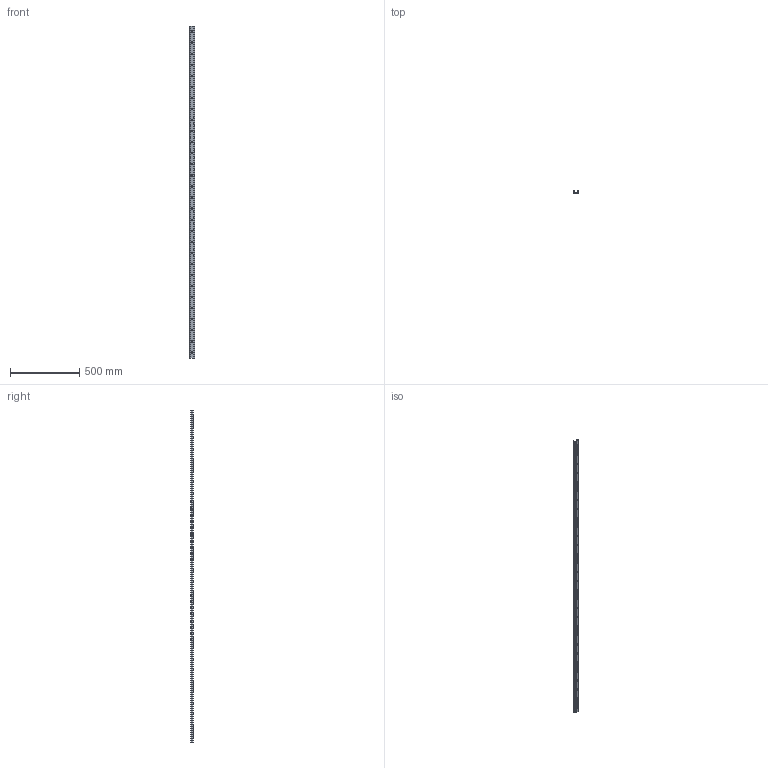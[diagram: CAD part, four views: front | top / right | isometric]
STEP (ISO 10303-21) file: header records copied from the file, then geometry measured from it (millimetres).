
FILE_DESCRIPTION(('STEP AP214'),'1');
FILE_NAME('rail_tex40-2400.stp','2019-03-08T08:33:37',('TraceParts'),('TraceParts S.A.'),'Spatial InterOp 3D',' ',' ');
FILE_SCHEMA(('automotive_design'));
Length unit declared in the file: millimetre
Products named in the file (1): rail_tex40-2400
Bounding box: 39.53 x 21 x 2400 mm (x, y, z)
Volume: 469230.4 mm3; surface area: 330578.2 mm2
Topology: 1 solids, 1 shells, 542 faces, 1404 edges, 936 vertices
Faces by surface type: plane 382, bspline 88, cylinder 72
Entity records: 34333 total; most frequent: CARTESIAN_POINT 17019, ORIENTED_EDGE 2808, DIRECTION 2282, EDGE_CURVE 1404, LINE 1084, VECTOR 1084, VERTEX_POINT 936, EDGE_LOOP 674
